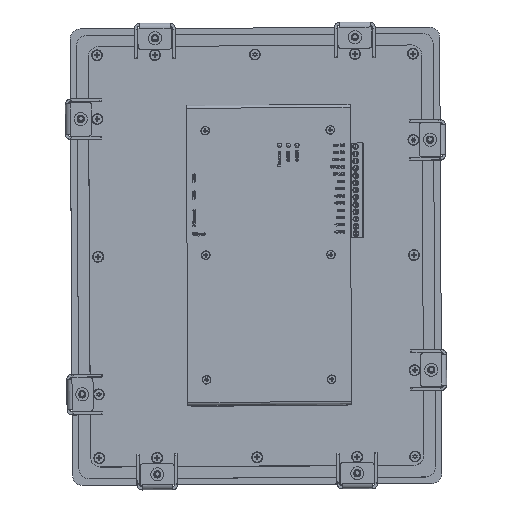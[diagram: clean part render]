
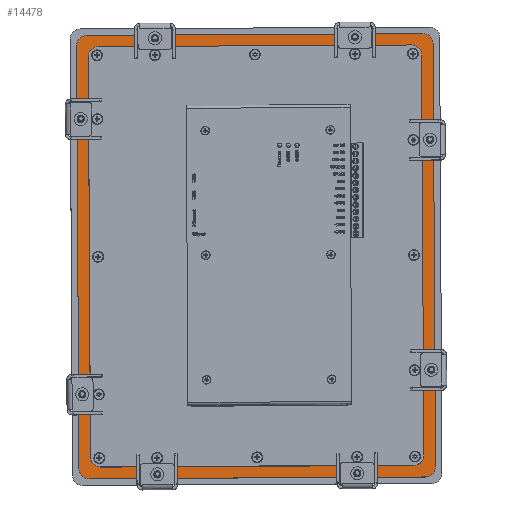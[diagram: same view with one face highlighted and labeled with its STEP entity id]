
A CAD part, top view. The second image highlights one B-rep face of the part: STEP entity #14478.
In plain terms, the highlighted planar face has unit normal (0.002, 0.014, 1) as drawn and (-0.088, -0.002, 0.996) by its records, which use the part's own axes.
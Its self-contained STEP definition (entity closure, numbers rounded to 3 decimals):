
#14478=ADVANCED_FACE('',(#55468,#55470),#55472,.F.);
#55468=FACE_BOUND('',#55469,.T.);
#55469=EDGE_LOOP('',(#88797,#88798,#88799,#88800,#88801,#88802,#88803,#88804));
#55470=FACE_BOUND('',#55471,.T.);
#55471=EDGE_LOOP('',(#88805,#88806,#88807,#88808,#88809,#88810,#88811,#88812));
#55472=PLANE('',#55473);
#55473=AXIS2_PLACEMENT_3D('',#55474,#55475,#55476);
#55474=CARTESIAN_POINT('',(-0.787,-46.345,26.943));
#55475=DIRECTION('',(0.088,0.002,-0.996));
#55476=DIRECTION('',(-0.045,0.999,-0.002));
#88797=ORIENTED_EDGE('',*,*,#115544,.F.);
#88798=ORIENTED_EDGE('',*,*,#115545,.F.);
#88799=ORIENTED_EDGE('',*,*,#115546,.F.);
#88800=ORIENTED_EDGE('',*,*,#115547,.F.);
#88801=ORIENTED_EDGE('',*,*,#115548,.F.);
#88802=ORIENTED_EDGE('',*,*,#115549,.F.);
#88803=ORIENTED_EDGE('',*,*,#115550,.F.);
#88804=ORIENTED_EDGE('',*,*,#115551,.F.);
#88805=ORIENTED_EDGE('',*,*,#114608,.T.);
#88806=ORIENTED_EDGE('',*,*,#114605,.T.);
#88807=ORIENTED_EDGE('',*,*,#114668,.T.);
#88808=ORIENTED_EDGE('',*,*,#114666,.T.);
#88809=ORIENTED_EDGE('',*,*,#114648,.T.);
#88810=ORIENTED_EDGE('',*,*,#114646,.T.);
#88811=ORIENTED_EDGE('',*,*,#114628,.T.);
#88812=ORIENTED_EDGE('',*,*,#114626,.T.);
#114605=EDGE_CURVE('',#130658,#130659,#130660,.F.);
#114608=EDGE_CURVE('',#130663,#130658,#130664,.F.);
#114626=EDGE_CURVE('',#130698,#130663,#130699,.F.);
#114628=EDGE_CURVE('',#130701,#130698,#130702,.F.);
#114646=EDGE_CURVE('',#130736,#130701,#130737,.F.);
#114648=EDGE_CURVE('',#130739,#130736,#130740,.F.);
#114666=EDGE_CURVE('',#130774,#130739,#130775,.F.);
#114668=EDGE_CURVE('',#130659,#130774,#130777,.F.);
#115544=EDGE_CURVE('',#132429,#132430,#132431,.T.);
#115545=EDGE_CURVE('',#132432,#132429,#132433,.T.);
#115546=EDGE_CURVE('',#132434,#132432,#132435,.T.);
#115547=EDGE_CURVE('',#132436,#132434,#132437,.T.);
#115548=EDGE_CURVE('',#132438,#132436,#132439,.T.);
#115549=EDGE_CURVE('',#132440,#132438,#132441,.T.);
#115550=EDGE_CURVE('',#132442,#132440,#132443,.T.);
#115551=EDGE_CURVE('',#132430,#132442,#132444,.T.);
#130658=VERTEX_POINT('',#161254);
#130659=VERTEX_POINT('',#161255);
#130660=CIRCLE('',#161256,7.);
#130663=VERTEX_POINT('',#161266);
#130664=LINE('',#161267,#161268);
#130698=VERTEX_POINT('',#161337);
#130699=CIRCLE('',#161338,7.);
#130701=VERTEX_POINT('',#161345);
#130702=LINE('',#161346,#161347);
#130736=VERTEX_POINT('',#161416);
#130737=CIRCLE('',#161417,7.);
#130739=VERTEX_POINT('',#161424);
#130740=LINE('',#161425,#161426);
#130774=VERTEX_POINT('',#161495);
#130775=CIRCLE('',#161496,7.);
#130777=LINE('',#161503,#161504);
#132429=VERTEX_POINT('',#166399);
#132430=VERTEX_POINT('',#166400);
#132431=LINE('',#166401,#166402);
#132432=VERTEX_POINT('',#166404);
#132433=CIRCLE('',#166405,7.);
#132434=VERTEX_POINT('',#166409);
#132435=LINE('',#166410,#166411);
#132436=VERTEX_POINT('',#166413);
#132437=CIRCLE('',#166414,7.);
#132438=VERTEX_POINT('',#166418);
#132439=LINE('',#166419,#166420);
#132440=VERTEX_POINT('',#166422);
#132441=CIRCLE('',#166423,7.);
#132442=VERTEX_POINT('',#166427);
#132443=LINE('',#166428,#166429);
#132444=CIRCLE('',#166431,7.);
#161254=CARTESIAN_POINT('',(-121.482,86.298,16.581));
#161255=CARTESIAN_POINT('',(-114.834,93.608,17.181));
#161256=AXIS2_PLACEMENT_3D('',#161257,#161258,#161259);
#161257=CARTESIAN_POINT('',(-114.517,86.615,17.195));
#161258=DIRECTION('',(-0.088,-0.002,0.996));
#161259=DIRECTION('',(-0.045,0.999,-0.002));
#161266=CARTESIAN_POINT('',(-108.968,-189.418,17.131));
#161267=CARTESIAN_POINT('',(-121.482,86.298,16.581));
#161268=VECTOR('',#161269,1.);
#161269=DIRECTION('',(0.045,-0.999,0.002));
#161337=CARTESIAN_POINT('',(-101.685,-196.093,17.759));
#161338=AXIS2_PLACEMENT_3D('',#161339,#161340,#161341);
#161339=CARTESIAN_POINT('',(-102.002,-189.1,17.745));
#161340=DIRECTION('',(-0.088,-0.002,0.996));
#161341=DIRECTION('',(-0.995,-0.045,-0.088));
#161345=CARTESIAN_POINT('',(113.26,-186.299,36.705));
#161346=CARTESIAN_POINT('',(-101.685,-196.093,17.759));
#161347=VECTOR('',#161348,1.);
#161348=DIRECTION('',(0.995,0.045,0.088));
#161416=CARTESIAN_POINT('',(119.908,-178.989,37.305));
#161417=AXIS2_PLACEMENT_3D('',#161418,#161419,#161420);
#161418=CARTESIAN_POINT('',(112.942,-179.306,36.691));
#161419=DIRECTION('',(-0.088,-0.002,0.996));
#161420=DIRECTION('',(0.045,-0.999,0.002));
#161424=CARTESIAN_POINT('',(107.394,96.727,36.755));
#161425=CARTESIAN_POINT('',(119.908,-178.989,37.305));
#161426=VECTOR('',#161427,1.);
#161427=DIRECTION('',(-0.045,0.999,-0.002));
#161495=CARTESIAN_POINT('',(100.11,103.402,36.127));
#161496=AXIS2_PLACEMENT_3D('',#161497,#161498,#161499);
#161497=CARTESIAN_POINT('',(100.428,96.409,36.141));
#161498=DIRECTION('',(-0.088,-0.002,0.996));
#161499=DIRECTION('',(0.995,0.045,0.088));
#161503=CARTESIAN_POINT('',(100.11,103.402,36.127));
#161504=VECTOR('',#161505,1.);
#161505=DIRECTION('',(-0.995,-0.045,-0.088));
#166399=CARTESIAN_POINT('',(114.992,105.081,37.441));
#166400=CARTESIAN_POINT('',(128.232,-186.618,38.023));
#166401=CARTESIAN_POINT('',(114.992,105.081,37.441));
#166402=VECTOR('',#166403,1.);
#166403=DIRECTION('',(0.045,-0.999,0.002));
#166404=CARTESIAN_POINT('',(107.709,111.757,36.813));
#166405=AXIS2_PLACEMENT_3D('',#166406,#166407,#166408);
#166406=CARTESIAN_POINT('',(108.026,104.764,36.827));
#166407=DIRECTION('',(0.088,0.002,-0.996));
#166408=DIRECTION('',(-0.045,0.999,-0.002));
#166409=CARTESIAN_POINT('',(-123.158,101.237,16.463));
#166410=CARTESIAN_POINT('',(-123.158,101.237,16.463));
#166411=VECTOR('',#166412,1.);
#166412=DIRECTION('',(0.995,0.045,0.088));
#166413=CARTESIAN_POINT('',(-129.806,93.927,15.863));
#166414=AXIS2_PLACEMENT_3D('',#166415,#166416,#166417);
#166415=CARTESIAN_POINT('',(-122.84,94.244,16.477));
#166416=DIRECTION('',(0.088,0.002,-0.996));
#166417=DIRECTION('',(-0.995,-0.045,-0.088));
#166418=CARTESIAN_POINT('',(-116.566,-197.772,16.445));
#166419=CARTESIAN_POINT('',(-116.566,-197.772,16.445));
#166420=VECTOR('',#166421,1.);
#166421=DIRECTION('',(-0.045,0.999,-0.002));
#166422=CARTESIAN_POINT('',(-109.283,-204.447,17.073));
#166423=AXIS2_PLACEMENT_3D('',#166424,#166425,#166426);
#166424=CARTESIAN_POINT('',(-109.6,-197.455,17.059));
#166425=DIRECTION('',(0.088,0.002,-0.996));
#166426=DIRECTION('',(0.045,-0.999,0.002));
#166427=CARTESIAN_POINT('',(121.583,-193.928,37.423));
#166428=CARTESIAN_POINT('',(121.583,-193.928,37.423));
#166429=VECTOR('',#166430,1.);
#166430=DIRECTION('',(-0.995,-0.045,-0.088));
#166431=AXIS2_PLACEMENT_3D('',#166432,#166433,#166434);
#166432=CARTESIAN_POINT('',(121.266,-186.935,37.409));
#166433=DIRECTION('',(0.088,0.002,-0.996));
#166434=DIRECTION('',(0.995,0.045,0.088));
